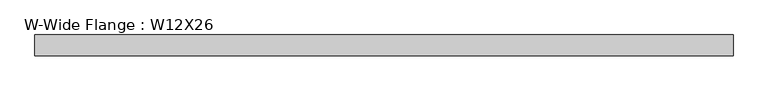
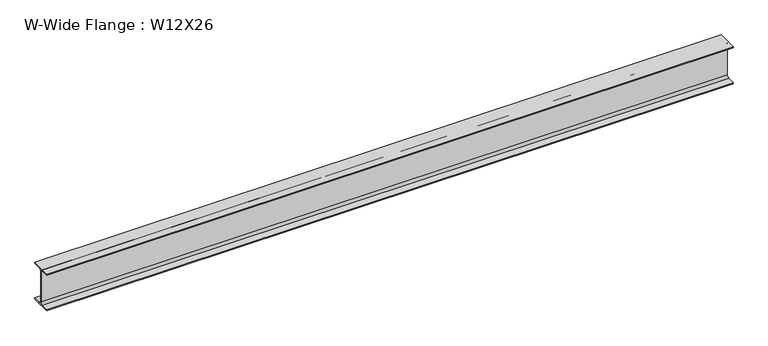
"""IFC4 building model written with IfcOpenShell, lengths in millimetres: beam geometry, W-Wide Flange : W12X26."""

from ifc_helpers import new_model, si_unit, point, frame, frame_2d, origin, place, context, project, spatial, polyline, circle_curve, trimmed, segment, composite_curve, outline, extrude, source, transform, mapped, element, save


def w_wide_flange_w12x26_dceb5f91(model_context):
    return source(origin(), model_context, "Body", "SweptSolid", [
        extrude(outline(composite_curve([segment(polyline([(82.4011719, -145.5539063), (82.4011719, -155.178125), (-82.4011719, -155.178125), (-82.4011719, -145.5539063), (-20.2902344, -145.5539063)]), True, "CONTINUOUS"), segment(trimmed(circle_curve(frame_2d((-20.2902344, -128.190625)), 17.3632812), [point((-20.2902344, -145.5539063))], [point((-2.9269531, -128.190625))], True, "CARTESIAN"), True, "CONTINUOUS"), segment(polyline([(-2.9269531, -128.190625), (-2.9269531, 128.190625)]), True, "CONTINUOUS"), segment(trimmed(circle_curve(frame_2d((-20.2902344, 128.190625)), 17.3632812), [point((-2.9269531, 128.190625))], [point((-20.2902344, 145.5539062))], True, "CARTESIAN"), True, "CONTINUOUS"), segment(polyline([(-20.2902344, 145.5539062), (-82.4011719, 145.5539062), (-82.4011719, 155.178125), (82.4011719, 155.178125), (82.4011719, 145.5539062), (20.2902344, 145.5539062)]), True, "CONTINUOUS"), segment(trimmed(circle_curve(frame_2d((20.2902344, 128.190625)), 17.3632812), [point((20.2902344, 145.5539062))], [point((2.9269531, 128.190625))], True, "CARTESIAN"), True, "CONTINUOUS"), segment(polyline([(2.9269531, 128.190625), (2.9269531, -128.190625)]), True, "CONTINUOUS"), segment(trimmed(circle_curve(frame_2d((20.2902344, -128.190625)), 17.3632812), [point((2.9269531, -128.190625))], [point((20.2902344, -145.5539063))], True, "CARTESIAN"), True, "CONTINUOUS"), segment(polyline([(20.2902344, -145.5539063), (82.4011719, -145.5539063)]), True, "CONTINUOUS")], self_intersect=False)), frame((-2730.5, 0.0, 0.0), z_axis=(1.0, 0.0, 0.0), x_axis=(0.0, 1.0, 0.0)), (0.0, 0.0, 1.0), 5461.0),
    ])


if __name__ == "__main__":
    model = new_model("IFC4")
    model_context = context("Model", 3, world=origin())
    ifc_project = project(units=[si_unit("LENGTHUNIT", "METRE", prefix="MILLI")], contexts=[model_context])
    site = spatial("IfcSite", under=ifc_project)
    building = spatial("IfcBuilding", under=site)
    placement = place(None, origin())
    w_wide_flange_w12x26_shape = w_wide_flange_w12x26_dceb5f91(model_context)
    element("IfcBeam", 1, ObjectType="W-Wide Flange : W12X26", at=placement, inside=building, context=model_context, shape_type="MappedRepresentation", body=[
        mapped(w_wide_flange_w12x26_shape, transform((0.0, 0.0, 0.0), x_axis=(1.0, 0.0, 0.0), y_axis=(0.0, 1.0, 0.0), z_axis=(0.0, 0.0, 1.0))),
    ])
    save(model, "model.ifc")
